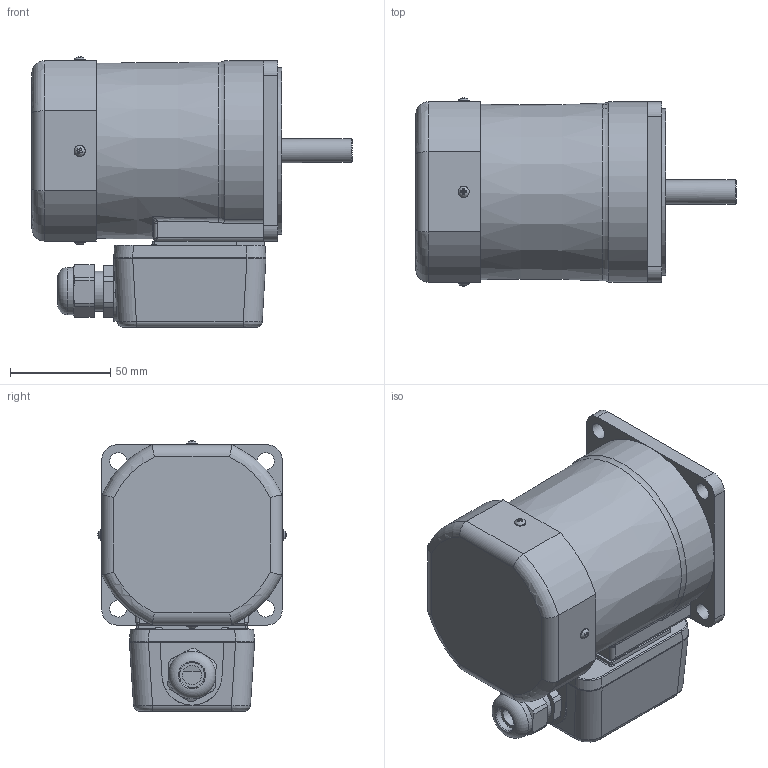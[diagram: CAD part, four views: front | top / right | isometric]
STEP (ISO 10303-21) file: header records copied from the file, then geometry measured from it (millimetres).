
FILE_DESCRIPTION(/* description */ (''),/* implementation_level */ '2;1');
FILE_NAME(/* name */ 'E:\도면작업\2016\0704) 미주향 SG 도면\3D MOTOR\TERMINAL BOX TYPE\INDUCTION TERMINAL BOX\SG9I60K_-T.stp',/* time_stamp */ '2017-01-23T19:06:30+09:00',/* author */ ('jy-jung'),/* organization */ (''),/* preprocessor_version */ 'ST-DEVELOPER v15.6',/* originating_system */ 'Autodesk Inventor 2015',/* authorisation */ '');
FILE_SCHEMA (('AUTOMOTIVE_DESIGN { 1 0 10303 214 3 1 1 }'));
Length unit declared in the file: millimetre
Products named in the file (1): 부품2
Bounding box: 159.8 x 93.89 x 134.95 mm (x, y, z)
Volume: 998161.8 mm3; surface area: 79555.8 mm2
Topology: 1 solids, 13 shells, 470 faces, 1172 edges, 747 vertices
Faces by surface type: plane 253, cylinder 125, bspline 53, torus 30, cone 9
Full cylindrical faces by diameter (mm): 2.55 x2, 3 x4, 3.5 x4, 5.6 x8, 6.3 x4, 8.5 x4, 12 x1, 12.5 x1, 15 x1, 20 x2, 21 x1, 23.6 x1, 40 x1, 83 x1
Entity records: 16109 total; most frequent: CARTESIAN_POINT 5079, ORIENTED_EDGE 2184, DIRECTION 2047, EDGE_CURVE 1092, VERTEX_POINT 733, AXIS2_PLACEMENT_3D 732, LINE 583, VECTOR 583
